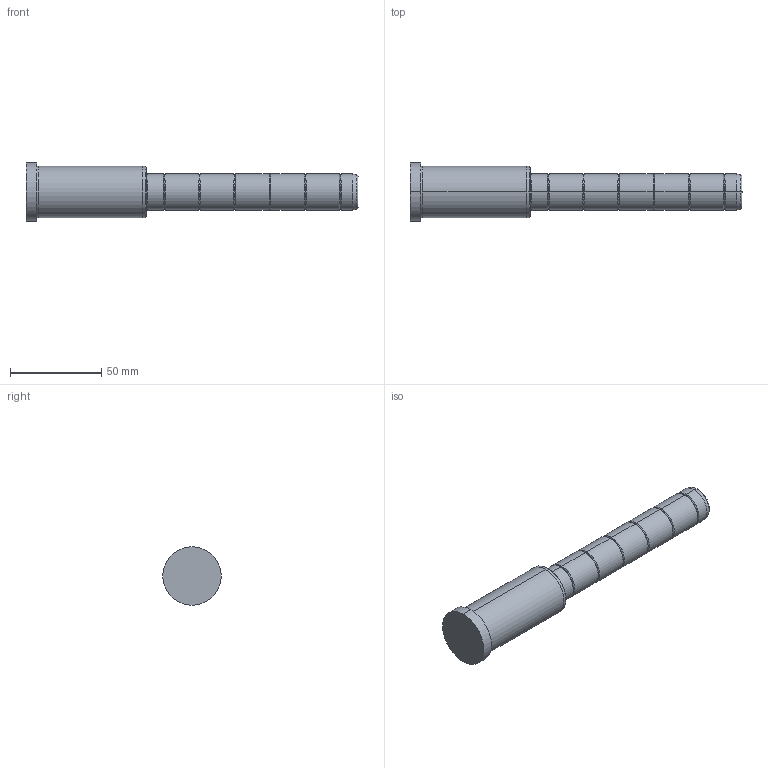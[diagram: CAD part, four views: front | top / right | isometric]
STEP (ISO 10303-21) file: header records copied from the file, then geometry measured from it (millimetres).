
FILE_DESCRIPTION( ( 'STEP AP203' ), '1' );
FILE_NAME( 'C:/Projects/D02 - 20x66x116.step', '2003-01-04T13:51:45', ( ' ' ), ( ' ' ), 'XStep 1.0', ' ', ' ' );
FILE_SCHEMA( ( 'CONFIG_CONTROL_DESIGN' ) );
Length unit declared in the file: metre
Products named in the file (1): 1
Bounding box: 182 x 32 x 32 mm (x, y, z)
Volume: 78030.7 mm3; surface area: 14877.3 mm2
Topology: 1 solids, 1 shells, 60 faces, 118 edges, 64 vertices
Faces by surface type: bspline 34, revolution 26
Entity records: 1919 total; most frequent: CARTESIAN_POINT 817, ORIENTED_EDGE 236, DIRECTION 182, EDGE_CURVE 118, AXIS2_PLACEMENT_3D 65, EDGE_LOOP 64, VERTEX_POINT 64, CIRCLE 64
